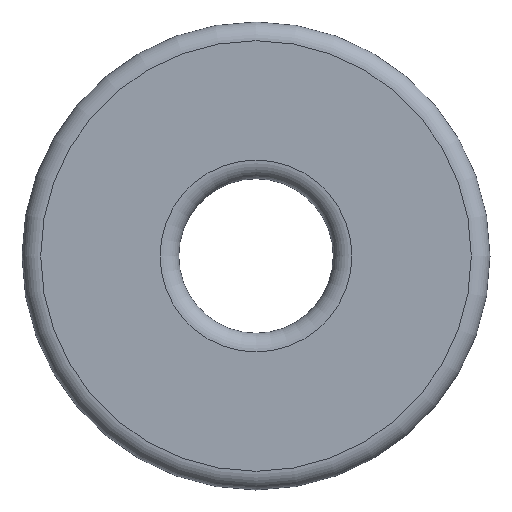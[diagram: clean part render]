
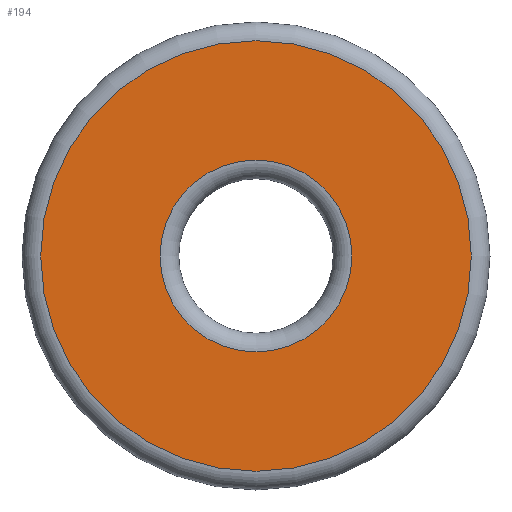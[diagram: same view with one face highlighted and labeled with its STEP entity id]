
A CAD part, front view. The second image highlights one B-rep face of the part: STEP entity #194.
In plain terms, the highlighted planar face has unit normal (0, -1, 0).
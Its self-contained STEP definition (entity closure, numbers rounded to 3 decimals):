
#66 = TOROIDAL_SURFACE('',#67,4.6,0.4);
#67 = AXIS2_PLACEMENT_3D('',#68,#69,#70);
#68 = CARTESIAN_POINT('',(0.,-34.35,0.));
#69 = DIRECTION('',(0.,-1.,0.));
#70 = DIRECTION('',(1.,0.,0.));
#110 = VERTEX_POINT('',#111);
#111 = CARTESIAN_POINT('',(4.6,-34.75,0.));
#133 = EDGE_CURVE('',#110,#110,#134,.T.);
#134 = SURFACE_CURVE('',#135,(#140,#147),.PCURVE_S1.);
#135 = CIRCLE('',#136,4.6);
#136 = AXIS2_PLACEMENT_3D('',#137,#138,#139);
#137 = CARTESIAN_POINT('',(0.,-34.75,0.));
#138 = DIRECTION('',(0.,-1.,0.));
#139 = DIRECTION('',(1.,0.,0.));
#140 = PCURVE('',#66,#141);
#141 = DEFINITIONAL_REPRESENTATION('',(#142),#146);
#142 = LINE('',#143,#144);
#143 = CARTESIAN_POINT('',(0.,1.571));
#144 = VECTOR('',#145,1.);
#145 = DIRECTION('',(1.,0.));
#146 = ( GEOMETRIC_REPRESENTATION_CONTEXT(2) 
PARAMETRIC_REPRESENTATION_CONTEXT() REPRESENTATION_CONTEXT('2D SPACE',''
  ) );
#147 = PCURVE('',#148,#153);
#148 = PLANE('',#149);
#149 = AXIS2_PLACEMENT_3D('',#150,#151,#152);
#150 = CARTESIAN_POINT('',(0.,-34.75,0.));
#151 = DIRECTION('',(0.,-1.,0.));
#152 = DIRECTION('',(1.,0.,0.));
#153 = DEFINITIONAL_REPRESENTATION('',(#154),#158);
#154 = CIRCLE('',#155,4.6);
#155 = AXIS2_PLACEMENT_2D('',#156,#157);
#156 = CARTESIAN_POINT('',(0.,0.));
#157 = DIRECTION('',(1.,0.));
#158 = ( GEOMETRIC_REPRESENTATION_CONTEXT(2) 
PARAMETRIC_REPRESENTATION_CONTEXT() REPRESENTATION_CONTEXT('2D SPACE',''
  ) );
#194 = ADVANCED_FACE('',(#195,#198),#148,.T.);
#195 = FACE_BOUND('',#196,.T.);
#196 = EDGE_LOOP('',(#197));
#197 = ORIENTED_EDGE('',*,*,#133,.T.);
#198 = FACE_BOUND('',#199,.T.);
#199 = EDGE_LOOP('',(#200));
#200 = ORIENTED_EDGE('',*,*,#201,.F.);
#201 = EDGE_CURVE('',#202,#202,#204,.T.);
#202 = VERTEX_POINT('',#203);
#203 = CARTESIAN_POINT('',(2.05,-34.75,0.));
#204 = SURFACE_CURVE('',#205,(#210,#217),.PCURVE_S1.);
#205 = CIRCLE('',#206,2.05);
#206 = AXIS2_PLACEMENT_3D('',#207,#208,#209);
#207 = CARTESIAN_POINT('',(0.,-34.75,0.));
#208 = DIRECTION('',(0.,-1.,0.));
#209 = DIRECTION('',(1.,0.,0.));
#210 = PCURVE('',#148,#211);
#211 = DEFINITIONAL_REPRESENTATION('',(#212),#216);
#212 = CIRCLE('',#213,2.05);
#213 = AXIS2_PLACEMENT_2D('',#214,#215);
#214 = CARTESIAN_POINT('',(0.,0.));
#215 = DIRECTION('',(1.,0.));
#216 = ( GEOMETRIC_REPRESENTATION_CONTEXT(2) 
PARAMETRIC_REPRESENTATION_CONTEXT() REPRESENTATION_CONTEXT('2D SPACE',''
  ) );
#217 = PCURVE('',#218,#223);
#218 = TOROIDAL_SURFACE('',#219,2.05,0.4);
#219 = AXIS2_PLACEMENT_3D('',#220,#221,#222);
#220 = CARTESIAN_POINT('',(0.,-34.35,0.));
#221 = DIRECTION('',(0.,-1.,0.));
#222 = DIRECTION('',(1.,0.,0.));
#223 = DEFINITIONAL_REPRESENTATION('',(#224),#228);
#224 = LINE('',#225,#226);
#225 = CARTESIAN_POINT('',(0.,1.571));
#226 = VECTOR('',#227,1.);
#227 = DIRECTION('',(1.,0.));
#228 = ( GEOMETRIC_REPRESENTATION_CONTEXT(2) 
PARAMETRIC_REPRESENTATION_CONTEXT() REPRESENTATION_CONTEXT('2D SPACE',''
  ) );
